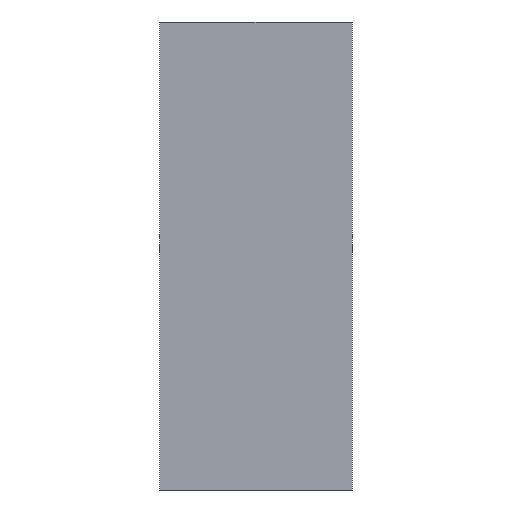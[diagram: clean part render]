
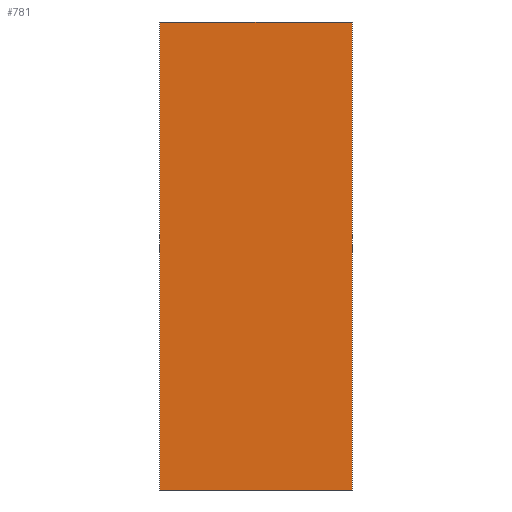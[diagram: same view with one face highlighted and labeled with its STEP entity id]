
A CAD part, front view. The second image highlights one B-rep face of the part: STEP entity #781.
In plain terms, the highlighted planar face has unit normal (0, -1, 0).
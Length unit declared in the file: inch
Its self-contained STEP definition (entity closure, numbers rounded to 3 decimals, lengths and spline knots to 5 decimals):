
#30 = VERTEX_POINT ( 'NONE', #491 ) ;
#31 = CARTESIAN_POINT ( 'NONE',  ( -0.30906, -0.10236, 0.75 ) ) ;
#61 = ORIENTED_EDGE ( 'NONE', *, *, #435, .F. ) ;
#92 = CARTESIAN_POINT ( 'NONE',  ( -0.30906, -0.10236, -0.75 ) ) ;
#114 = DIRECTION ( 'NONE',  ( 1., 0., 0. ) ) ;
#116 = LINE ( 'NONE', #700, #366 ) ;
#146 = FACE_OUTER_BOUND ( 'NONE', #347, .T. ) ;
#155 = PLANE ( 'NONE',  #319 ) ;
#204 = CARTESIAN_POINT ( 'NONE',  ( -0.30906, -0.10236, -0.75 ) ) ;
#212 = DIRECTION ( 'NONE',  ( 0., 0., 1. ) ) ;
#239 = ORIENTED_EDGE ( 'NONE', *, *, #560, .F. ) ;
#243 = VERTEX_POINT ( 'NONE', #685 ) ;
#246 = VECTOR ( 'NONE', #302, 39.37008 ) ;
#271 = DIRECTION ( 'NONE',  ( 1., 0., 0. ) ) ;
#275 = DIRECTION ( 'NONE',  ( 0., 0., -1. ) ) ;
#286 = EDGE_CURVE ( 'NONE', #404, #738, #429, .T. ) ;
#289 = CARTESIAN_POINT ( 'NONE',  ( -0.30906, -0.10236, 0.75 ) ) ;
#302 = DIRECTION ( 'NONE',  ( 0., 0., -1. ) ) ;
#319 = AXIS2_PLACEMENT_3D ( 'NONE', #31, #512, #212 ) ;
#324 = ORIENTED_EDGE ( 'NONE', *, *, #286, .T. ) ;
#347 = EDGE_LOOP ( 'NONE', ( #380, #239, #61, #324 ) ) ;
#366 = VECTOR ( 'NONE', #114, 39.37008 ) ;
#380 = ORIENTED_EDGE ( 'NONE', *, *, #704, .T. ) ;
#404 = VERTEX_POINT ( 'NONE', #289 ) ;
#427 = CARTESIAN_POINT ( 'NONE',  ( 0.30906, -0.10236, 0.75 ) ) ;
#429 = LINE ( 'NONE', #756, #576 ) ;
#435 = EDGE_CURVE ( 'NONE', #404, #30, #116, .T. ) ;
#462 = VECTOR ( 'NONE', #271, 39.37008 ) ;
#491 = CARTESIAN_POINT ( 'NONE',  ( 0.30906, -0.10236, 0.75 ) ) ;
#512 = DIRECTION ( 'NONE',  ( 0., 1., 0. ) ) ;
#560 = EDGE_CURVE ( 'NONE', #30, #243, #641, .T. ) ;
#576 = VECTOR ( 'NONE', #275, 39.37008 ) ;
#606 = LINE ( 'NONE', #204, #462 ) ;
#641 = LINE ( 'NONE', #427, #246 ) ;
#685 = CARTESIAN_POINT ( 'NONE',  ( 0.30906, -0.10236, -0.75 ) ) ;
#700 = CARTESIAN_POINT ( 'NONE',  ( -0.30906, -0.10236, 0.75 ) ) ;
#704 = EDGE_CURVE ( 'NONE', #738, #243, #606, .T. ) ;
#738 = VERTEX_POINT ( 'NONE', #92 ) ;
#756 = CARTESIAN_POINT ( 'NONE',  ( -0.30906, -0.10236, 0.75 ) ) ;
#781 = ADVANCED_FACE ( 'NONE', ( #146 ), #155, .F. ) ;
